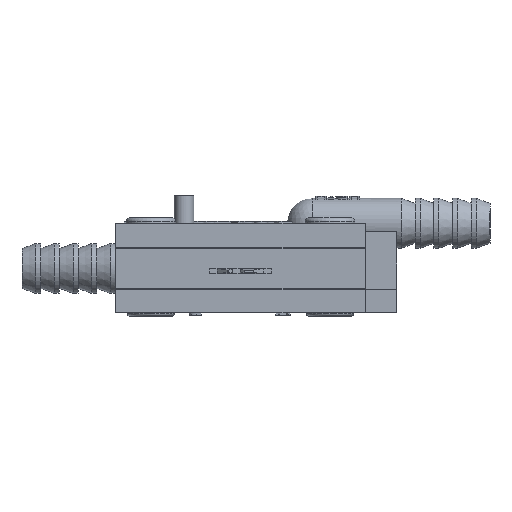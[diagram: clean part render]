
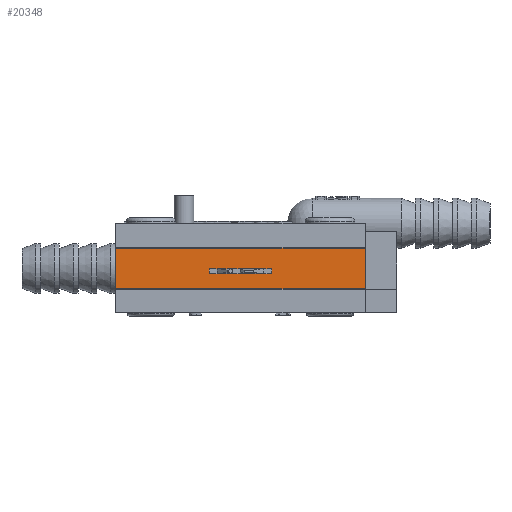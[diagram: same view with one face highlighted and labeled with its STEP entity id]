
A CAD part, front view. The second image highlights one B-rep face of the part: STEP entity #20348.
In plain terms, the highlighted planar face has unit normal (0, -1, 0).
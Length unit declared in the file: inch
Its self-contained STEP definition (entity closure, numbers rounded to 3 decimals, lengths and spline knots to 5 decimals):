
#1422=LINE('',#26389,#3334);
#1438=LINE('',#26470,#3350);
#1443=LINE('',#26479,#3355);
#1445=LINE('',#26502,#3357);
#3334=VECTOR('',#22522,0.162);
#3350=VECTOR('',#22612,0.162);
#3355=VECTOR('',#22621,1.);
#3357=VECTOR('',#22649,1.);
#5284=PLANE('',#21542);
#5956=FACE_OUTER_BOUND('',#7538,.T.);
#7538=EDGE_LOOP('',(#14573,#14574,#14575,#14576));
#9580=VERTEX_POINT('',#26386);
#9581=VERTEX_POINT('',#26388);
#9608=VERTEX_POINT('',#26467);
#9609=VERTEX_POINT('',#26469);
#11555=EDGE_CURVE('',#9581,#9580,#1422,.T.);
#11587=EDGE_CURVE('',#9608,#9609,#1438,.T.);
#11592=EDGE_CURVE('',#9580,#9609,#1443,.T.);
#11602=EDGE_CURVE('',#9608,#9581,#1445,.T.);
#14573=ORIENTED_EDGE('',*,*,#11592,.T.);
#14574=ORIENTED_EDGE('',*,*,#11587,.F.);
#14575=ORIENTED_EDGE('',*,*,#11602,.T.);
#14576=ORIENTED_EDGE('',*,*,#11555,.T.);
#20348=ADVANCED_FACE('',(#5956),#5284,.T.);
#21542=AXIS2_PLACEMENT_3D('',#26501,#22647,#22648);
#22522=DIRECTION('',(0.,0.,-1.));
#22612=DIRECTION('',(0.,0.,-1.));
#22621=DIRECTION('',(1.,0.,0.));
#22647=DIRECTION('center_axis',(0.,-1.,0.));
#22648=DIRECTION('ref_axis',(0.,0.,-1.));
#22649=DIRECTION('',(-1.,0.,0.));
#26386=CARTESIAN_POINT('',(-0.5,-0.5,-0.162));
#26388=CARTESIAN_POINT('',(-0.5,-0.5,0.));
#26389=CARTESIAN_POINT('',(-0.5,-0.5,0.));
#26467=CARTESIAN_POINT('',(0.5,-0.5,0.));
#26469=CARTESIAN_POINT('',(0.5,-0.5,-0.162));
#26470=CARTESIAN_POINT('',(0.5,-0.5,0.));
#26479=CARTESIAN_POINT('',(0.5,-0.5,-0.162));
#26501=CARTESIAN_POINT('Origin',(-0.5,-0.5,0.));
#26502=CARTESIAN_POINT('',(0.5,-0.5,0.));
